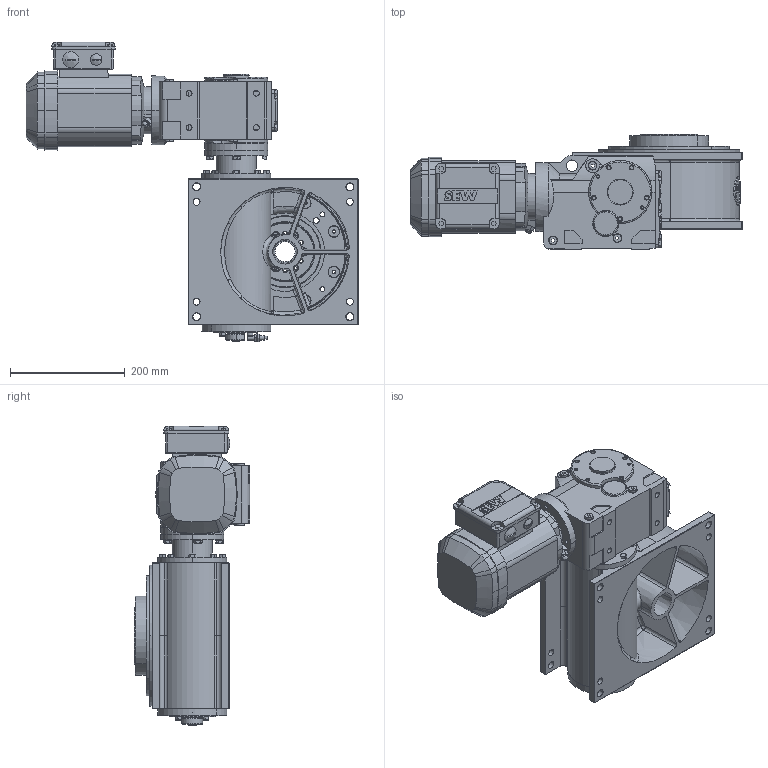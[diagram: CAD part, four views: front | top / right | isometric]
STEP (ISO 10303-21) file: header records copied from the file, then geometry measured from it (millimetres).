
FILE_DESCRIPTION (( 'STEP AP214' ), '1' );
FILE_NAME ('M210_SEW_KA37DRS71S4_D3_08.STEP', '2020-06-17T04:05:04', ( '' ), ( '' ), 'SwSTEP 2.0', 'SolidWorks 2020', '' );
FILE_SCHEMA (( 'AUTOMOTIVE_DESIGN' ));
Length unit declared in the file: millimetre
Products named in the file (1): M210_SEW_KA37DRS71S4_D3_08
Bounding box: 578 x 201 x 522 mm (x, y, z)
Surface area: 844358.7 mm2 (no closed solid volume)
Topology: 0 solids, 75 shells, 1468 faces, 4416 edges, 2952 vertices
Faces by surface type: plane 644, cylinder 457, cone 190, bspline 126, torus 51
Entity records: 74452 total; most frequent: CARTESIAN_POINT 19474, DIRECTION 8062, ORIENTED_EDGE 7515, EDGE_CURVE 4388, VERTEX_POINT 2952, AXIS2_PLACEMENT_3D 2929, VECTOR 2204, LINE 2204
